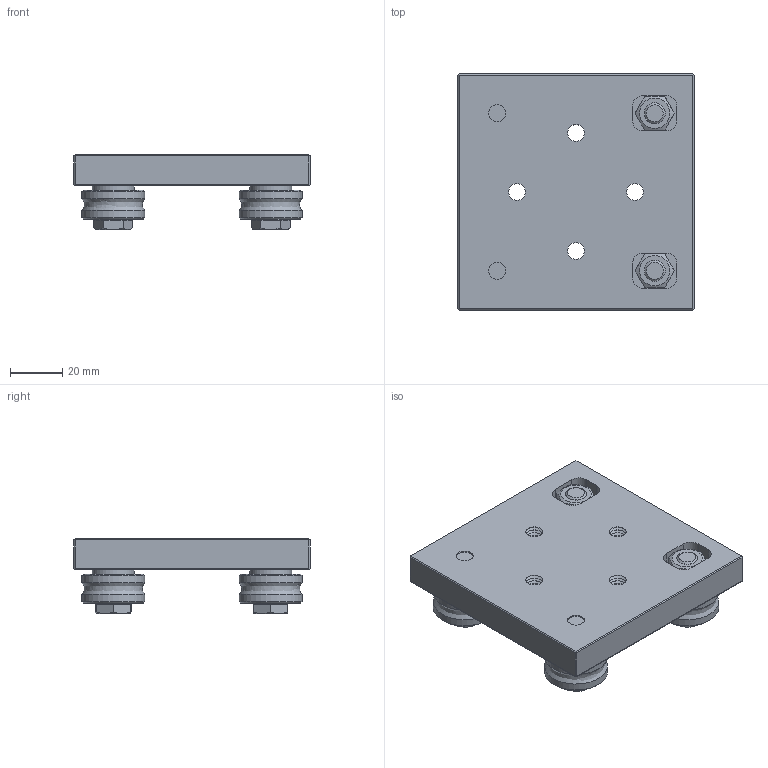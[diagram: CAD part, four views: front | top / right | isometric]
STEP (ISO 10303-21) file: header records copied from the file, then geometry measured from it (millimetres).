
FILE_DESCRIPTION((''),'2;1');
FILE_NAME('C:\Documents and Settings\Administrator\My Documents\Andys Backup Data\ANDY''S INVENTOR\INVENTOR LIBRARIES\MINITEC INVENTOR LIBRARIES\READY FOR USE MODULES LR\A PACKED FILES\STEP FILES\28.0138 SLIDE LR 6.stp','2010-07-01T09:08:09',('Administrator'),(''),'Autodesk Inventor 2009','Autodesk Inventor 2009','');
FILE_SCHEMA(('CONFIG_CONTROL_DESIGN'));
Length unit declared in the file: millimetre
Products named in the file (7): 28.0138 SLIDE LR 6; 28.0138 SLIDE LR 6 AL PLATE; M8 ROUND WASHER DIN 125-1; 28.0014 SLIDE LR6 BEARING; 28.0240 SLIDE LR6 CONCENTRIC BUSHING; SET SCREW M5X10 WITH DOG POINT DIN 915; HEX NUT M8 THIN DIN 439-2
Assembly tree (17 placements, depth 2):
  28.0138 SLIDE LR 6
    28.0138 SLIDE LR 6 AL PLATE
    M8 ROUND WASHER DIN 125-1  x4
    28.0014 SLIDE LR6 BEARING  x4
    28.0240 SLIDE LR6 CONCENTRIC BUSHING  x4
    SET SCREW M5X10 WITH DOG POINT DIN 915  x2
    HEX NUT M8 THIN DIN 439-2  x2
Bounding box: 90 x 90 x 28.6 mm (x, y, z)
Volume: 116319 mm3; surface area: 38402.9 mm2
Topology: 17 solids, 17 shells, 452 faces, 966 edges, 560 vertices
Faces by surface type: cone 254, plane 141, cylinder 39, bspline 18
Full cylindrical faces by diameter (mm): 3.5 x2, 5 x2, 8 x9, 8.4 x4, 13 x4, 16 x4, 24 x8
Entity records: 7280 total; most frequent: CARTESIAN_POINT 1556, DIRECTION 1218, ORIENTED_EDGE 868, AXIS2_PLACEMENT_3D 543, EDGE_LOOP 502, EDGE_CURVE 434, VERTEX_POINT 352, FACE_OUTER_BOUND 285
